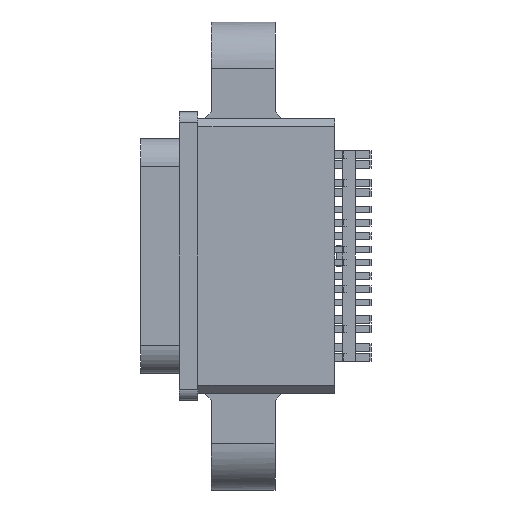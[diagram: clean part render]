
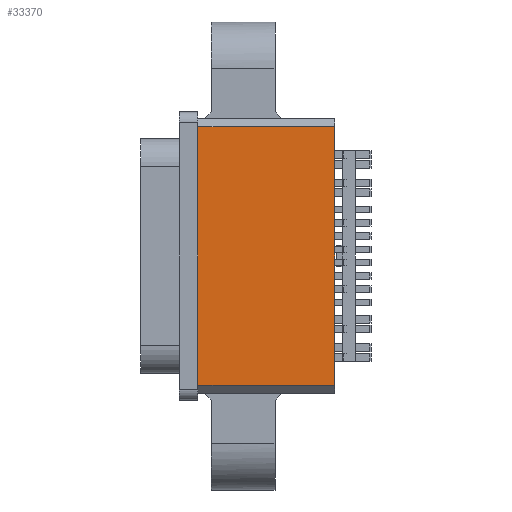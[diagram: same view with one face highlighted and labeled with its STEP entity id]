
A CAD part, front view. The second image highlights one B-rep face of the part: STEP entity #33370.
In plain terms, the highlighted planar face has unit normal (0, -1, 0).
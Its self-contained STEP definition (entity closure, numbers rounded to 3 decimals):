
#146 = AXIS2_PLACEMENT_3D ( 'NONE', #22518, #22516, #22520 ) ;
#2112 = FACE_OUTER_BOUND ( 'NONE', #42253, .T. ) ;
#4387 = CARTESIAN_POINT ( 'NONE',  ( 3.98, -1.94, 1.92 ) ) ;
#4655 = CARTESIAN_POINT ( 'NONE',  ( -1.17, -1.94, 2.115 ) ) ;
#4656 = DIRECTION ( 'NONE',  ( 0., 0., -1. ) ) ;
#4708 = DIRECTION ( 'NONE',  ( 0., 0., 1. ) ) ;
#4710 = CARTESIAN_POINT ( 'NONE',  ( 3.98, -1.94, 2.115 ) ) ;
#4742 = DIRECTION ( 'NONE',  ( 1., 0., 0. ) ) ;
#4778 = CARTESIAN_POINT ( 'NONE',  ( -1.273, -1.94, -7.82 ) ) ;
#4943 = CARTESIAN_POINT ( 'NONE',  ( -1.273, -1.94, 1.92 ) ) ;
#4970 = DIRECTION ( 'NONE',  ( -1., 0., 0. ) ) ;
#5540 = LINE ( 'NONE', #4655, #5596 ) ;
#5550 = LINE ( 'NONE', #4710, #5561 ) ;
#5561 = VECTOR ( 'NONE', #4708, 1000. ) ;
#5596 = VECTOR ( 'NONE', #4656, 1000. ) ;
#5603 = LINE ( 'NONE', #4778, #5647 ) ;
#5647 = VECTOR ( 'NONE', #4742, 1000. ) ;
#5731 = VECTOR ( 'NONE', #4970, 1000. ) ;
#5735 = LINE ( 'NONE', #4943, #5731 ) ;
#6218 = CARTESIAN_POINT ( 'NONE',  ( -1.17, -1.94, -7.82 ) ) ;
#6222 = CARTESIAN_POINT ( 'NONE',  ( -1.17, -1.94, 1.92 ) ) ;
#6232 = CARTESIAN_POINT ( 'NONE',  ( 3.98, -1.94, -7.82 ) ) ;
#22493 = PLANE ( 'NONE',  #146 ) ;
#22516 = DIRECTION ( 'NONE',  ( 0., -1., 0. ) ) ;
#22518 = CARTESIAN_POINT ( 'NONE',  ( -1.273, -1.94, 2.115 ) ) ;
#22520 = DIRECTION ( 'NONE',  ( 1., 0., 0. ) ) ;
#33370 = ADVANCED_FACE ( 'NONE', ( #2112 ), #22493, .T. ) ;
#42253 = EDGE_LOOP ( 'NONE', ( #62047, #62103, #62043, #62087 ) ) ;
#57659 = EDGE_CURVE ( 'NONE', #59585, #59659, #5540, .T. ) ;
#57676 = EDGE_CURVE ( 'NONE', #59591, #59525, #5550, .T. ) ;
#57743 = EDGE_CURVE ( 'NONE', #59659, #59591, #5603, .T. ) ;
#57912 = EDGE_CURVE ( 'NONE', #59525, #59585, #5735, .T. ) ;
#59525 = VERTEX_POINT ( 'NONE', #4387 ) ;
#59585 = VERTEX_POINT ( 'NONE', #6222 ) ;
#59591 = VERTEX_POINT ( 'NONE', #6232 ) ;
#59659 = VERTEX_POINT ( 'NONE', #6218 ) ;
#62043 = ORIENTED_EDGE ( 'NONE', *, *, #57743, .T. ) ;
#62047 = ORIENTED_EDGE ( 'NONE', *, *, #57912, .T. ) ;
#62087 = ORIENTED_EDGE ( 'NONE', *, *, #57676, .T. ) ;
#62103 = ORIENTED_EDGE ( 'NONE', *, *, #57659, .T. ) ;
